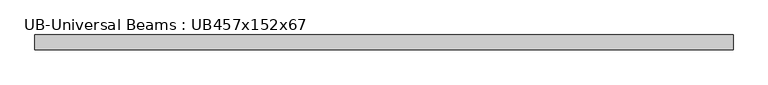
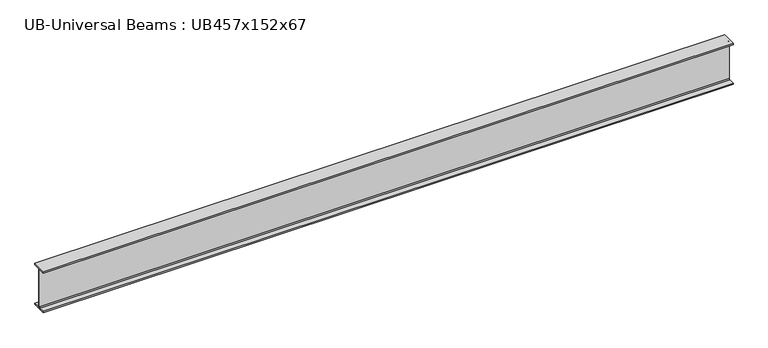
"""IFC4 building model written with IfcOpenShell, lengths in millimetres: beam geometry, UB-Universal Beams : UB457x152x67."""

from ifc_helpers import new_model, si_unit, point, frame, frame_2d, origin, place, context, project, spatial, polyline, circle_curve, trimmed, segment, composite_curve, outline, extrude, source, transform, mapped, element, save


def ub_universal_beams_ub457x152x67_5d27a3bd(model_context):
    return source(origin(), model_context, "Body", "SweptSolid", [
        extrude(outline(composite_curve([segment(polyline([(76.9, -214.0), (76.9, -229.0), (-76.9, -229.0), (-76.9, -214.0), (-14.7, -214.0)]), True, "CONTINUOUS"), segment(trimmed(circle_curve(frame_2d((-14.7, -203.8)), 10.2), [point((-14.7, -214.0))], [point((-4.5, -203.8))], True, "CARTESIAN"), True, "CONTINUOUS"), segment(polyline([(-4.5, -203.8), (-4.5, 203.8)]), True, "CONTINUOUS"), segment(trimmed(circle_curve(frame_2d((-14.7, 203.8)), 10.2), [point((-4.5, 203.8))], [point((-14.7, 214.0))], True, "CARTESIAN"), True, "CONTINUOUS"), segment(polyline([(-14.7, 214.0), (-76.9, 214.0), (-76.9, 229.0), (76.9, 229.0), (76.9, 214.0), (14.7, 214.0)]), True, "CONTINUOUS"), segment(trimmed(circle_curve(frame_2d((14.7, 203.8)), 10.2), [point((14.7, 214.0))], [point((4.5, 203.8))], True, "CARTESIAN"), True, "CONTINUOUS"), segment(polyline([(4.5, 203.8), (4.5, -203.8)]), True, "CONTINUOUS"), segment(trimmed(circle_curve(frame_2d((14.7, -203.8)), 10.2), [point((4.5, -203.8))], [point((14.7, -214.0))], True, "CARTESIAN"), True, "CONTINUOUS"), segment(polyline([(14.7, -214.0), (76.9, -214.0)]), True, "CONTINUOUS")], self_intersect=False)), frame((-3637.3, 0.0, 0.0), z_axis=(1.0, 0.0, 0.0), x_axis=(0.0, 1.0, 0.0)), (0.0, 0.0, 1.0), 7271.4),
    ])


if __name__ == "__main__":
    model = new_model("IFC4")
    model_context = context("Model", 3, world=origin())
    ifc_project = project(units=[si_unit("LENGTHUNIT", "METRE", prefix="MILLI")], contexts=[model_context])
    site = spatial("IfcSite", under=ifc_project)
    building = spatial("IfcBuilding", under=site)
    placement = place(None, origin())
    ub_universal_beams_ub457x152x67_shape = ub_universal_beams_ub457x152x67_5d27a3bd(model_context)
    element("IfcBeam", 1, ObjectType="UB-Universal Beams : UB457x152x67", at=placement, inside=building, context=model_context, shape_type="MappedRepresentation", body=[
        mapped(ub_universal_beams_ub457x152x67_shape, transform((0.0, 0.0, 0.0), x_axis=(1.0, 0.0, 0.0), y_axis=(0.0, 1.0, 0.0), z_axis=(0.0, 0.0, 1.0))),
    ])
    save(model, "model.ifc")
